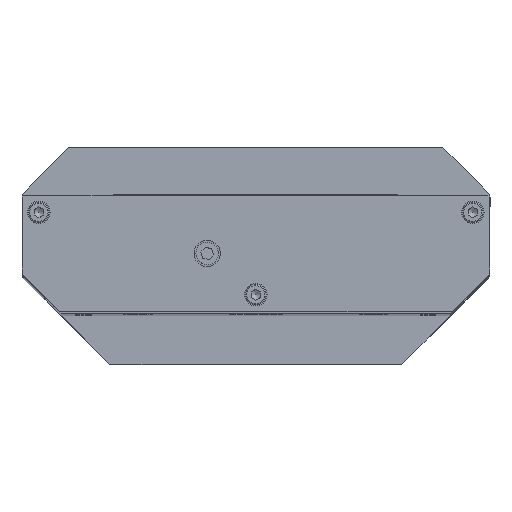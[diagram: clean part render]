
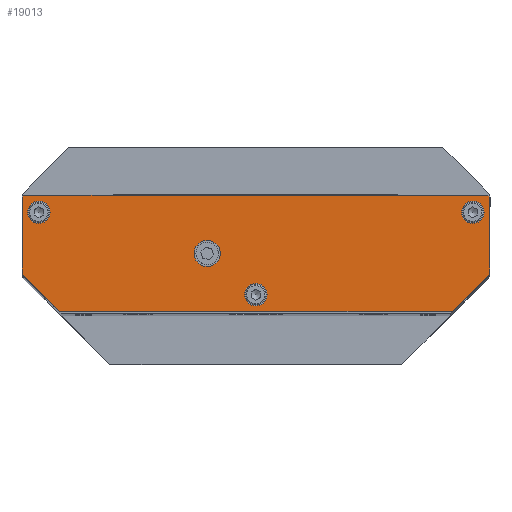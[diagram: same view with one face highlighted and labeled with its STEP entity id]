
A CAD part, top view. The second image highlights one B-rep face of the part: STEP entity #19013.
In plain terms, the highlighted planar face has unit normal (0, 0, 1).
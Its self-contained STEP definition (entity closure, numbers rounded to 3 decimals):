
#18531=CARTESIAN_POINT('',(124.5,0.0,9.0));
#18532=VERTEX_POINT('',#18531);
#18533=CARTESIAN_POINT('',(125.0,-0.5,9.0));
#18534=VERTEX_POINT('',#18533);
#18535=CARTESIAN_POINT('',(124.5,0.0,9.0));
#18536=DIRECTION('',(0.707,-0.707,0.0));
#18537=VECTOR('',#18536,0.707);
#18538=LINE('',#18535,#18537);
#18539=EDGE_CURVE('',#18532,#18534,#18538,.T.);
#18580=CARTESIAN_POINT('',(0.5,0.0,9.0));
#18581=VERTEX_POINT('',#18580);
#18588=CARTESIAN_POINT('',(0.5,0.0,9.0));
#18589=DIRECTION('',(1.0,0.0,0.0));
#18590=VECTOR('',#18589,124.0);
#18591=LINE('',#18588,#18590);
#18592=EDGE_CURVE('',#18581,#18532,#18591,.T.);
#18602=CARTESIAN_POINT('',(0.,-0.5,9.0));
#18603=VERTEX_POINT('',#18602);
#18604=CARTESIAN_POINT('',(0.,-0.5,9.0));
#18605=DIRECTION('',(0.707,0.707,0.0));
#18606=VECTOR('',#18605,0.707);
#18607=LINE('',#18604,#18606);
#18608=EDGE_CURVE('',#18603,#18581,#18607,.T.);
#18681=CARTESIAN_POINT('',(53.0,-15.5,9.));
#18682=VERTEX_POINT('',#18681);
#18683=CARTESIAN_POINT('',(49.5,-15.5,9.));
#18684=DIRECTION('',(0.0,0.0,-1.0));
#18685=DIRECTION('',(-1.0,0.0,0.0));
#18686=AXIS2_PLACEMENT_3D('',#18683,#18684,#18685);
#18687=CIRCLE('',#18686,3.5);
#18688=EDGE_CURVE('',#18682,#18682,#18687,.T.);
#18729=CARTESIAN_POINT('',(65.5,-26.5,9.0));
#18730=VERTEX_POINT('',#18729);
#18731=CARTESIAN_POINT('',(62.5,-26.5,9.0));
#18732=DIRECTION('',(0.0,0.0,-1.0));
#18733=DIRECTION('',(1.0,0.0,0.0));
#18734=AXIS2_PLACEMENT_3D('',#18731,#18732,#18733);
#18735=CIRCLE('',#18734,3.);
#18736=EDGE_CURVE('',#18730,#18730,#18735,.T.);
#18769=CARTESIAN_POINT('',(123.5,-4.5,9.0));
#18770=VERTEX_POINT('',#18769);
#18771=CARTESIAN_POINT('',(120.5,-4.5,9.0));
#18772=DIRECTION('',(0.0,0.0,-1.0));
#18773=DIRECTION('',(1.0,0.0,0.0));
#18774=AXIS2_PLACEMENT_3D('',#18771,#18772,#18773);
#18775=CIRCLE('',#18774,3.);
#18776=EDGE_CURVE('',#18770,#18770,#18775,.T.);
#18809=CARTESIAN_POINT('',(7.5,-4.5,9.0));
#18810=VERTEX_POINT('',#18809);
#18811=CARTESIAN_POINT('',(4.5,-4.5,9.0));
#18812=DIRECTION('',(0.0,0.0,-1.0));
#18813=DIRECTION('',(1.0,0.0,0.0));
#18814=AXIS2_PLACEMENT_3D('',#18811,#18812,#18813);
#18815=CIRCLE('',#18814,3.);
#18816=EDGE_CURVE('',#18810,#18810,#18815,.T.);
#18829=CARTESIAN_POINT('',(10.,-31.0,9.0));
#18830=VERTEX_POINT('',#18829);
#18831=CARTESIAN_POINT('',(0.,-21.0,9.0));
#18832=VERTEX_POINT('',#18831);
#18833=CARTESIAN_POINT('',(10.,-31.0,9.0));
#18834=DIRECTION('',(-0.707,0.707,0.0));
#18835=VECTOR('',#18834,14.142);
#18836=LINE('',#18833,#18835);
#18837=EDGE_CURVE('',#18830,#18832,#18836,.T.);
#18885=CARTESIAN_POINT('',(0.,-21.0,9.0));
#18886=DIRECTION('',(0.0,1.0,0.0));
#18887=VECTOR('',#18886,20.5);
#18888=LINE('',#18885,#18887);
#18889=EDGE_CURVE('',#18832,#18603,#18888,.T.);
#18900=CARTESIAN_POINT('',(125.,-21.0,9.0));
#18901=VERTEX_POINT('',#18900);
#18902=CARTESIAN_POINT('',(125.0,-0.5,9.0));
#18903=DIRECTION('',(0.0,-1.0,0.0));
#18904=VECTOR('',#18903,20.5);
#18905=LINE('',#18902,#18904);
#18906=EDGE_CURVE('',#18534,#18901,#18905,.T.);
#18930=CARTESIAN_POINT('',(115.,-31.0,9.0));
#18931=VERTEX_POINT('',#18930);
#18932=CARTESIAN_POINT('',(125.,-21.0,9.0));
#18933=DIRECTION('',(-0.707,-0.707,0.0));
#18934=VECTOR('',#18933,14.142);
#18935=LINE('',#18932,#18934);
#18936=EDGE_CURVE('',#18901,#18931,#18935,.T.);
#18969=CARTESIAN_POINT('',(115.,-31.0,9.0));
#18970=DIRECTION('',(-1.0,0.0,0.0));
#18971=VECTOR('',#18970,105.);
#18972=LINE('',#18969,#18971);
#18973=EDGE_CURVE('',#18931,#18830,#18972,.T.);
#18986=CARTESIAN_POINT('',(62.5,-14.757,9.0));
#18987=DIRECTION('',(0.0,0.0,1.0));
#18988=DIRECTION('',(1.0,0.0,0.0));
#18989=AXIS2_PLACEMENT_3D('',#18986,#18987,#18988);
#18990=PLANE('',#18989);
#18991=ORIENTED_EDGE('',*,*,#18539,.F.);
#18992=ORIENTED_EDGE('',*,*,#18592,.F.);
#18993=ORIENTED_EDGE('',*,*,#18608,.F.);
#18994=ORIENTED_EDGE('',*,*,#18889,.F.);
#18995=ORIENTED_EDGE('',*,*,#18837,.F.);
#18996=ORIENTED_EDGE('',*,*,#18973,.F.);
#18997=ORIENTED_EDGE('',*,*,#18936,.F.);
#18998=ORIENTED_EDGE('',*,*,#18906,.F.);
#18999=EDGE_LOOP('',(#18991,#18992,#18993,#18994,#18995,#18996,#18997,#18998));
#19000=FACE_OUTER_BOUND('',#18999,.T.);
#19001=ORIENTED_EDGE('',*,*,#18688,.T.);
#19002=EDGE_LOOP('',(#19001));
#19003=FACE_BOUND('',#19002,.T.);
#19004=ORIENTED_EDGE('',*,*,#18736,.T.);
#19005=EDGE_LOOP('',(#19004));
#19006=FACE_BOUND('',#19005,.T.);
#19007=ORIENTED_EDGE('',*,*,#18776,.T.);
#19008=EDGE_LOOP('',(#19007));
#19009=FACE_BOUND('',#19008,.T.);
#19010=ORIENTED_EDGE('',*,*,#18816,.T.);
#19011=EDGE_LOOP('',(#19010));
#19012=FACE_BOUND('',#19011,.T.);
#19013=ADVANCED_FACE('',(#19000,#19003,#19006,#19009,#19012),#18990,.T.);
